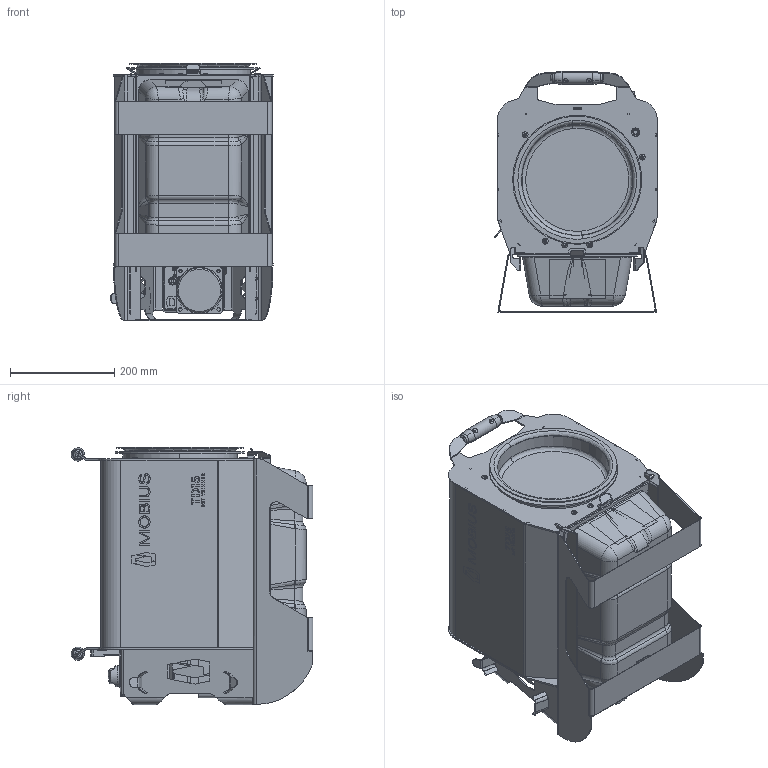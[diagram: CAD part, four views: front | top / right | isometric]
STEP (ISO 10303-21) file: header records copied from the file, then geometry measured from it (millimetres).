
FILE_DESCRIPTION (( 'STEP AP214' ), '1' );
FILE_NAME ('51-00-007486.STEP', '2025-02-03T13:52:17', ( '' ), ( '' ), 'SwSTEP 2.0', 'SolidWorks 2023', '' );
FILE_SCHEMA (( 'AUTOMOTIVE_DESIGN' ));
Products named in the file (1): 51-00-007486
Bounding box: 312.63 x 463.55 x 493.25 mm (x, y, z)
Surface area: 1808594.9 mm2 (no closed solid volume)
Topology: 0 solids, 133 shells, 1189 faces, 7116 edges, 5946 vertices
Faces by surface type: plane 576, cylinder 381, bspline 108, cone 68, torus 43, sphere 13
Entity records: 91048 total; most frequent: CARTESIAN_POINT 39770, DIRECTION 9477, ORIENTED_EDGE 9278, EDGE_CURVE 7100, VERTEX_POINT 5946, LINE 3831, VECTOR 3831, AXIS2_PLACEMENT_3D 2823
